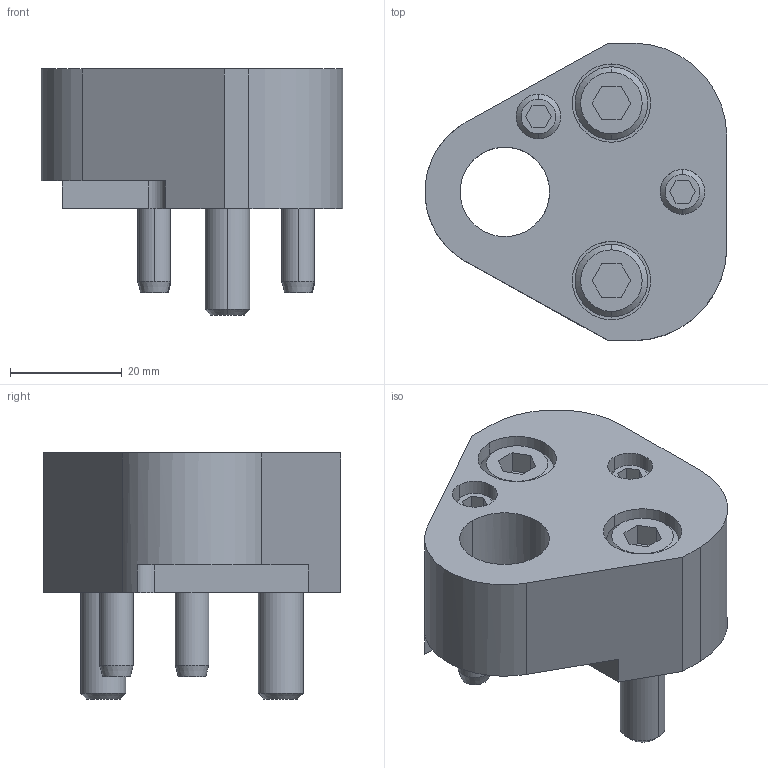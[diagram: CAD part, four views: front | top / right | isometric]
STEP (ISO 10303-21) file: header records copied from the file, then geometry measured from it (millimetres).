
FILE_DESCRIPTION(/* description */ (''),/* implementation_level */ '2;1');
FILE_NAME(/* name */ '3d_25crnfr16_03154_r00.stp',/* time_stamp */ '2011-01-10T14:17:52+09:00',/* author */ ('MISUMI'),/* organization */ (''),/* preprocessor_version */ 'ST-DEVELOPER v11',/* originating_system */ 'UGS - NX 5.0',/* authorisation */ '');
FILE_SCHEMA (('CONFIG_CONTROL_DESIGN'));
Length unit declared in the file: millimetre
Products named in the file (1): 3d_25crnfr16_03154_r00
Bounding box: 53.96 x 53.2 x 44 mm (x, y, z)
Volume: 47275.9 mm3; surface area: 16695.7 mm2
Topology: 7 solids, 7 shells, 136 faces, 304 edges, 195 vertices
Faces by surface type: plane 62, cylinder 48, cone 26
Entity records: 3927 total; most frequent: DIRECTION 695, CARTESIAN_POINT 695, ORIENTED_EDGE 608, EDGE_CURVE 304, AXIS2_PLACEMENT_3D 261, VERTEX_POINT 195, LINE 173, VECTOR 173
